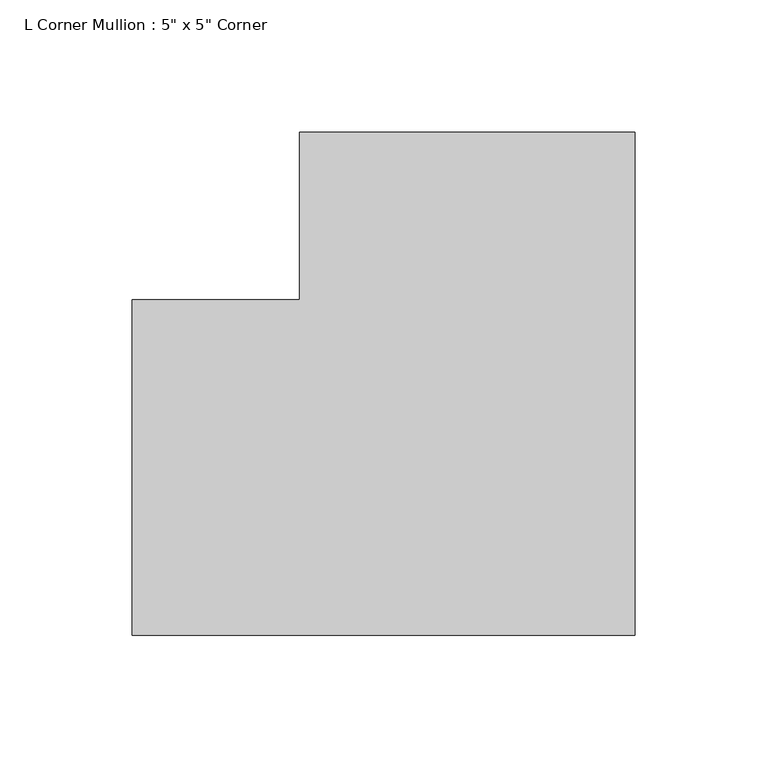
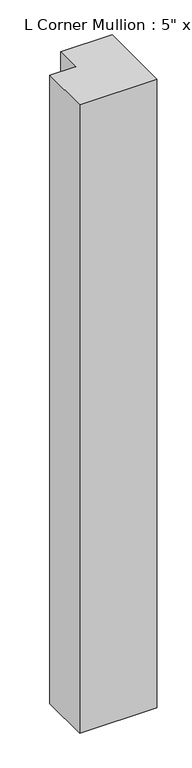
"""IFC4 building model written with IfcOpenShell, lengths in millimetres: member geometry."""

from ifc_helpers import new_model, si_unit, frame, origin, place, context, project, spatial, polyline, outline, extrude, source, transform, mapped, element, save


def member_07888544(model_context):
    return source(origin(), model_context, "Body", "SweptSolid", [
        extrude(outline(polyline([(63.5, 127.0), (63.5, -63.5), (-127.0, -63.5), (-127.0, 63.5), (-63.5, 63.5), (-63.5, 127.0), (63.5, 127.0)])), frame((0.0, 0.0, -1638.3), z_axis=(0.0, 0.0, 1.0), x_axis=(1.0, 0.0, 0.0)), (0.0, 0.0, 1.0), 1638.3),
    ])


if __name__ == "__main__":
    model = new_model("IFC4")
    model_context = context("Model", 3, world=origin())
    ifc_project = project(units=[si_unit("LENGTHUNIT", "METRE", prefix="MILLI")], contexts=[model_context])
    site = spatial("IfcSite", under=ifc_project)
    building = spatial("IfcBuilding", under=site)
    placement = place(None, origin())
    member_shape = member_07888544(model_context)
    element("IfcMember", 1, ObjectType="L Corner Mullion : 5\" x 5\" Corner", at=placement, inside=building, context=model_context, shape_type="MappedRepresentation", body=[
        mapped(member_shape, transform((0.0, 0.0, 0.0), x_axis=(1.0, 0.0, 0.0), y_axis=(0.0, 1.0, 0.0), z_axis=(0.0, 0.0, 1.0))),
    ])
    save(model, "model.ifc")
